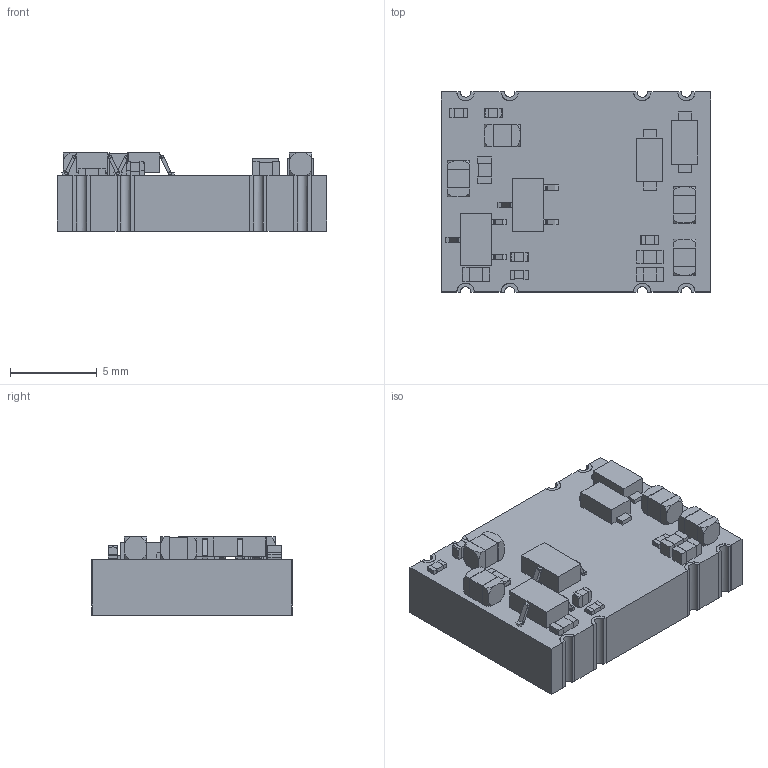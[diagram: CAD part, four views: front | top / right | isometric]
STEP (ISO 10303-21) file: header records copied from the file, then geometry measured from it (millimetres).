
FILE_DESCRIPTION(('FreeCAD Model'),'2;1');
FILE_NAME('Open CASCADE Shape Model','2023-12-07T00:40:16',('Author'),( ''),'Open CASCADE STEP processor 7.6','FreeCAD','Unknown');
FILE_SCHEMA(('AUTOMOTIVE_DESIGN { 1 0 10303 214 1 1 1 1 }'));
Products named in the file (1): Group023
Bounding box: 15.5 x 11.52 x 4.5 mm (x, y, z)
Volume: 605.2 mm3; surface area: 658.5 mm2
Topology: 1 solids, 1 shells, 669 faces, 1752 edges, 1104 vertices
Faces by surface type: plane 409, bspline 210, cylinder 50
Entity records: 67618 total; most frequent: CARTESIAN_POINT 33564, DIRECTION 3660, ORIENTED_EDGE 3504, PCURVE 3504, DEFINITIONAL_REPRESENTATION 3504, B_SPLINE_CURVE_WITH_KNOTS 2480, LINE 2120, VECTOR 2120
